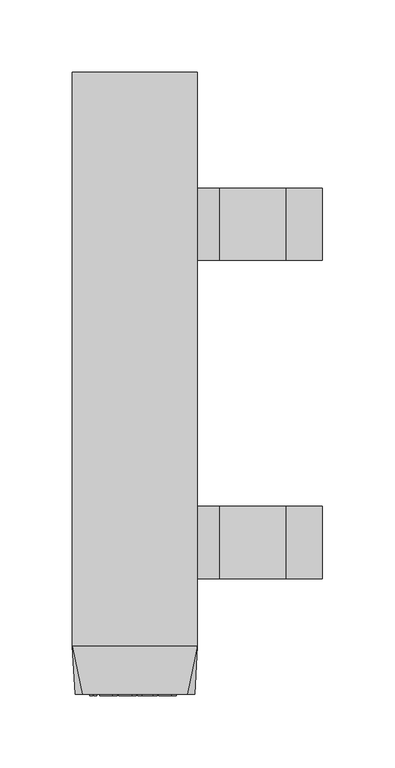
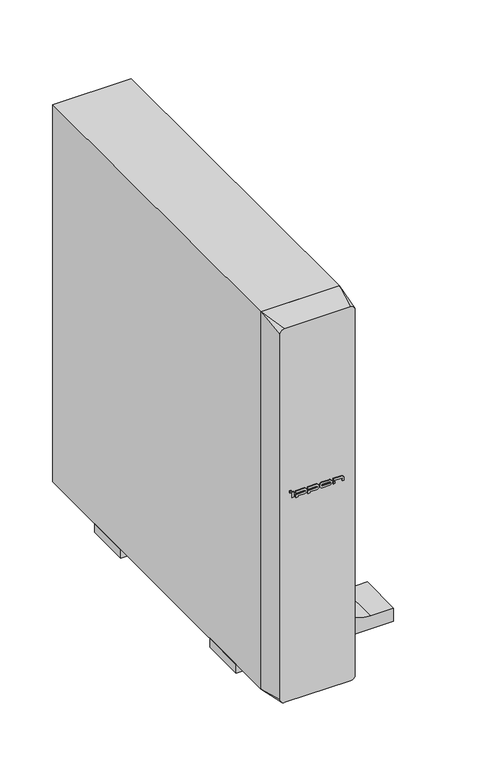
"""IFC4 building model written with IfcOpenShell, lengths in millimetres: proxy geometry, IPPON_EBM_Smart Winner II_1500_2000_2000E_3000ВА : EBM Smart Winner II 1500 ВА."""

from ifc_helpers import new_model, si_unit, point, frame, frame_2d, origin, origin_with_axes, place, context, project, spatial, polyline, circle_curve, trimmed, segment, composite_curve, outline, extrude, source, transform, mapped, element, save
from ifc_brep_helpers import plane_surface, spline_surface, advanced_brep


def electrical_equipment_f85adaec(model_context):
    return source(origin(), model_context, "Body", "SolidModel", [
        extrude(outline(polyline([(-29.1718133, -1.0), (-31.1718133, -1.0), (-31.1718133, 0.0), (-29.1718133, 0.0), (-29.1718133, -1.0)])), frame((0.0, 0.0, 253.8445835), z_axis=(0.0, 0.0, 1.0), x_axis=(1.0, 0.0, 0.0)), (0.0, 0.0, 1.0), 2.3),
        extrude(outline(polyline([(18.6035474, -1.0), (16.6035474, -1.0), (16.6035474, 0.0), (18.6035474, 0.0), (18.6035474, -1.0)])), frame((0.0, 0.0, 247.8445835), z_axis=(0.0, 0.0, 1.0), x_axis=(1.0, 0.0, 0.0)), (0.0, 0.0, 1.0), 2.2268231),
        extrude(outline(polyline([(-26.438565, -1.0), (-28.4833324, -1.0), (-28.4833324, 0.0), (-26.438565, 0.0), (-26.438565, -1.0)])), frame((0.0, 0.0, 247.8445835), z_axis=(0.0, 0.0, 1.0), x_axis=(1.0, 0.0, 0.0)), (0.0, 0.0, 1.0), 6.0),
        extrude(outline(composite_curve([segment(polyline([(251.5821435, -24.2241109), (251.5821435, -14.9923536)]), True, "CONTINUOUS"), segment(trimmed(circle_curve(frame_2d((250.7256642, -14.9923536)), 0.8564793), [point((251.5821435, -14.9923536))], [point((249.8691849, -14.9923536))], True, "CARTESIAN"), True, "CONTINUOUS"), segment(polyline([(249.8691849, -14.9923536), (249.8691849, -24.2241109), (246.3786803, -24.2241109), (246.3786803, -22.2241109), (247.8445835, -22.2241109), (247.8445835, -15.1486036)]), True, "CONTINUOUS"), segment(trimmed(circle_curve(frame_2d((250.8445835, -15.1486036)), 3.0), [point((247.8445835, -15.1486036))], [point((253.8445835, -15.1486036))], False, "CARTESIAN"), True, "CONTINUOUS"), segment(polyline([(253.8445835, -15.1486036), (253.8445835, -24.2241109), (251.5821435, -24.2241109)]), True, "CONTINUOUS")], self_intersect=False)), frame((0.0, -1.0, 0.0), z_axis=(0.0, 1.0, 0.0), x_axis=(0.0, 0.0, 1.0)), (0.0, 0.0, 1.0), 1.0),
        extrude(outline(composite_curve([segment(polyline([(251.5821435, -11.0171091), (251.5821435, -1.7853518)]), True, "CONTINUOUS"), segment(trimmed(circle_curve(frame_2d((250.7256642, -1.7853518)), 0.8564793), [point((251.5821435, -1.7853518))], [point((249.8691849, -1.7853518))], True, "CARTESIAN"), True, "CONTINUOUS"), segment(polyline([(249.8691849, -1.7853518), (249.8691849, -11.0171091), (246.3786803, -11.0171091), (246.3786803, -9.0171091), (247.8445835, -9.0171091), (247.8445835, -1.9416018)]), True, "CONTINUOUS"), segment(trimmed(circle_curve(frame_2d((250.8445835, -1.9416018)), 3.0), [point((247.8445835, -1.9416018))], [point((253.8445835, -1.9416018))], False, "CARTESIAN"), True, "CONTINUOUS"), segment(polyline([(253.8445835, -1.9416018), (253.8445835, -11.0171091), (251.5821435, -11.0171091)]), True, "CONTINUOUS")], self_intersect=False)), frame((0.0, -1.0, 0.0), z_axis=(0.0, 1.0, 0.0), x_axis=(0.0, 0.0, 1.0)), (0.0, 0.0, 1.0), 1.0),
        extrude(outline(composite_curve([segment(trimmed(circle_curve(frame_2d((250.8445835, 12.558657)), 3.0), [point((247.8445835, 12.558657))], [point((253.8445835, 12.558657))], False, "CARTESIAN"), True, "CONTINUOUS"), segment(polyline([(253.8445835, 12.558657), (253.8445835, 4.958657)]), True, "CONTINUOUS"), segment(trimmed(circle_curve(frame_2d((250.8445835, 4.958657)), 3.0), [point((253.8445835, 4.958657))], [point((247.8445835, 4.958657))], False, "CARTESIAN"), True, "CONTINUOUS"), segment(polyline([(247.8445835, 4.958657), (247.8445835, 12.558657)]), True, "CONTINUOUS")], self_intersect=False), holes=[composite_curve([segment(polyline([(249.8691849, 12.714907), (249.8691849, 4.802407)]), True, "CONTINUOUS"), segment(trimmed(circle_curve(frame_2d((250.7256642, 4.802407)), 0.8564793), [point((249.8691849, 4.802407))], [point((251.5821435, 4.802407))], True, "CARTESIAN"), True, "CONTINUOUS"), segment(polyline([(251.5821435, 4.802407), (251.5821435, 12.714907)]), True, "CONTINUOUS"), segment(trimmed(circle_curve(frame_2d((250.7256642, 12.714907)), 0.8564793), [point((251.5821435, 12.714907))], [point((249.8691849, 12.714907))], True, "CARTESIAN"), True, "CONTINUOUS")], self_intersect=False)]), frame((0.0, -1.0, 0.0), z_axis=(0.0, 1.0, 0.0), x_axis=(0.0, 0.0, 1.0)), (0.0, 0.0, 1.0), 1.0),
        extrude(outline(composite_curve([segment(polyline([(251.5821435, 16.6035474), (251.5821435, 25.8353046)]), True, "CONTINUOUS"), segment(trimmed(circle_curve(frame_2d((250.7256642, 25.8353046)), 0.8564793), [point((251.5821435, 25.8353046))], [point((250.7256642, 26.6917839))], True, "CARTESIAN"), True, "CONTINUOUS"), segment(polyline([(250.7256642, 26.6917839), (247.8445835, 26.6917839), (247.8445835, 28.6317921), (251.375, 28.6317921)]), True, "CONTINUOUS"), segment(trimmed(circle_curve(frame_2d((250.8445835, 25.6790546)), 3.0), [point((251.375, 28.6317921))], [point((253.8445835, 25.6790546))], False, "CARTESIAN"), True, "CONTINUOUS"), segment(polyline([(253.8445835, 25.6790546), (253.8445835, 16.6035474), (251.5821435, 16.6035474)]), True, "CONTINUOUS")], self_intersect=False)), frame((0.0, -1.0, 0.0), z_axis=(0.0, 1.0, 0.0), x_axis=(0.0, 0.0, 1.0)), (0.0, 0.0, 1.0), 1.0),
        extrude(outline(polyline([(-43.25, 350.0), (43.25, 350.0), (43.25, 300.0), (-43.25, 300.0), (-43.25, 350.0)])), origin_with_axes(), (0.0, 0.0, 1.0), 10.0),
        extrude(outline(polyline([(43.25, 80.0), (-43.25, 80.0), (-43.25, 130.0), (43.25, 130.0), (43.25, 80.0)])), origin_with_axes(), (0.0, 0.0, 1.0), 10.0),
        extrude(outline(composite_curve([segment(polyline([(0.0, 129.75), (15.0, 129.75), (15.0, 104.75)]), True, "CONTINUOUS"), segment(trimmed(circle_curve(frame_2d((61.5, 104.75)), 46.5), [point((15.0, 104.75))], [point((61.5, 58.25))], True, "CARTESIAN"), True, "CONTINUOUS"), segment(polyline([(61.5, 58.25), (86.5, 58.25), (86.5, 43.25), (0.0, 43.25), (0.0, 129.75)]), True, "CONTINUOUS")], self_intersect=False)), frame((0.0, 300.0, 0.0), z_axis=(0.0, 1.0, 0.0), x_axis=(0.0, 0.0, 1.0)), (0.0, 0.0, 1.0), 50.0),
        extrude(outline(composite_curve([segment(polyline([(0.0, 43.25), (0.0, 129.75), (15.0, 129.75), (15.0, 104.75)]), True, "CONTINUOUS"), segment(trimmed(circle_curve(frame_2d((61.5, 104.75)), 46.5), [point((15.0, 104.75))], [point((61.5, 58.25))], True, "CARTESIAN"), True, "CONTINUOUS"), segment(polyline([(61.5, 58.25), (86.5, 58.25), (86.5, 43.25), (0.0, 43.25)]), True, "CONTINUOUS")], self_intersect=False)), frame((0.0, 80.0, 0.0), z_axis=(0.0, 1.0, 0.0), x_axis=(0.0, 0.0, 1.0)), (0.0, 0.0, 1.0), 50.0),
        advanced_brep(
        [(36.25, 0.0, 12.0), (41.25, 0.0, 17.0), (41.25, 0.0, 441.0), (36.25, 0.0, 446.0), (-36.25, 0.0, 446.0), (-41.25, 0.0, 441.0), (-41.25, 0.0, 17.0), (-36.25, 0.0, 12.0), (43.25, 33.0, 10.0), (-43.25, 33.0, 10.0), (-43.25, 33.0, 448.0), (43.25, 33.0, 448.0)],
        [
            (0, 1, circle_curve(frame((36.25, 0.0, 17.0), z_axis=(0.0, -1.0, 0.0), x_axis=(-1.0, 0.0, 0.0)), 5.0)),
            (1, 2),
            (2, 3, circle_curve(frame((36.25, 0.0, 441.0), z_axis=(0.0, -1.0, 0.0), x_axis=(-1.0, 0.0, 0.0)), 5.0)),
            (3, 4),
            (4, 5, circle_curve(frame((-36.25, 0.0, 441.0), z_axis=(0.0, -1.0, 0.0), x_axis=(-1.0, 0.0, 0.0)), 5.0)),
            (5, 6),
            (6, 7, circle_curve(frame((-36.25, 0.0, 17.0), z_axis=(0.0, -1.0, 0.0), x_axis=(-1.0, 0.0, 0.0)), 5.0)),
            (7, 0),
            (8, 9),
            (9, 10),
            (10, 11),
            (11, 8),
            (0, 8),
            (8, 1),
            (7, 9),
            (6, 9),
            (5, 10),
            (4, 10),
            (3, 11),
            (2, 11),
        ],
        [
            plane_surface(frame((0.0, 0.0, 229.0), z_axis=(0.0, -1.0, 0.0), x_axis=(1.0, 0.0, 0.0))),
            plane_surface(frame((0.0, 33.0, 229.0), z_axis=(0.0, 1.0, 0.0), x_axis=(1.0, 0.0, 0.0))),
            spline_surface(2, 1, [[(43.25, 33.0, 10.0), (36.25, 0.0, 12.0)], [(43.25, 33.0, 10.0), (41.25, 0.0, 12.0)], [(43.25, 33.0, 10.0), (41.25, 0.0, 17.0)]], [3, 3], [2, 2], [0.0, 1.0], [0.0, 1.0], weights=[[1.0, 1.0], [0.7071067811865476, 0.7071067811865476], [1.0, 1.0]]),
            plane_surface(frame((0.0, 33.0, 10.0), z_axis=(0.0, -0.060495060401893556, -0.9981684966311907), x_axis=(1.0, 0.0, 0.0))),
            spline_surface(2, 1, [[(-43.25, 33.0, 10.0), (-41.25, 0.0, 17.0)], [(-43.25, 33.0, 10.0), (-41.25, 0.0, 12.0)], [(-43.25, 33.0, 10.0), (-36.25, 0.0, 12.0)]], [3, 3], [2, 2], [0.0, 1.0], [0.0, 1.0], weights=[[1.0, 1.0], [0.7071067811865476, 0.7071067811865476], [1.0, 1.0]]),
            plane_surface(frame((-43.25, 33.0, 229.0), z_axis=(-0.998168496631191, -0.06049506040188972, 0.0), x_axis=(0.0, 0.0, -1.0))),
            spline_surface(2, 1, [[(-43.25, 33.0, 448.0), (-36.25, 0.0, 446.0)], [(-43.25, 33.0, 448.0), (-41.25, 0.0, 446.0)], [(-43.25, 33.0, 448.0), (-41.25, 0.0, 441.0)]], [3, 3], [2, 2], [0.0, 1.0], [0.0, 1.0], weights=[[1.0, 1.0], [0.7071067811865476, 0.7071067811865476], [1.0, 1.0]]),
            plane_surface(frame((0.0, 33.0, 448.0), z_axis=(0.0, -0.06049506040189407, 0.9981684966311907), x_axis=(-1.0, 0.0, 0.0))),
            spline_surface(2, 1, [[(43.25, 33.0, 448.0), (41.25, 0.0, 441.0)], [(43.25, 33.0, 448.0), (41.25, 0.0, 446.0)], [(43.25, 33.0, 448.0), (36.25, 0.0, 446.0)]], [3, 3], [2, 2], [0.0, 1.0], [0.0, 1.0], weights=[[1.0, 1.0], [0.7071067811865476, 0.7071067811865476], [1.0, 1.0]]),
            plane_surface(frame((43.25, 33.0, 229.0), z_axis=(0.9981684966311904, -0.06049506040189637, 0.0), x_axis=(0.0, 0.0, 1.0))),
        ],
        [
            (0, [[1, 2, 3, 4, 5, 6, 7, 8]]),
            (1, [[9, 10, 11, 12]]),
            (2, [[-1, 13, 14]]),
            (3, [[-9, -13, -8, 15]]),
            (4, [[-7, 16, -15]]),
            (5, [[-10, -16, -6, 17]]),
            (6, [[-5, 18, -17]]),
            (7, [[-11, -18, -4, 19]]),
            (8, [[-3, 20, -19]]),
            (9, [[-12, -20, -2, -14]]),
        ],
    ),
        extrude(outline(polyline([(43.25, 33.0), (-43.25, 33.0), (-43.25, 430.0), (43.25, 430.0), (43.25, 33.0)])), frame((0.0, 0.0, 10.0), z_axis=(0.0, 0.0, 1.0), x_axis=(1.0, 0.0, 0.0)), (0.0, 0.0, 1.0), 438.0),
    ])


if __name__ == "__main__":
    model = new_model("IFC4")
    model_context = context("Model", 3, world=origin())
    ifc_project = project(units=[si_unit("LENGTHUNIT", "METRE", prefix="MILLI")], contexts=[model_context])
    site = spatial("IfcSite", under=ifc_project)
    building = spatial("IfcBuilding", under=site)
    placement = place(None, origin())
    electrical_equipment_shape = electrical_equipment_f85adaec(model_context)
    element("IfcBuildingElementProxy", 1, Name="IPPON_EBM_Smart Winner II_1500_2000_2000E_3000ВА : EBM Smart Winner II 1500 ВА", ObjectType="IPPON_EBM_Smart Winner II_1500_2000_2000E_3000ВА : EBM Smart Winner II 1500 ВА", at=placement, inside=building, context=model_context, shape_type="MappedRepresentation", body=[
        mapped(electrical_equipment_shape, transform((0.0, 0.0, 0.0), x_axis=(1.0, 0.0, 0.0), y_axis=(0.0, 1.0, 0.0), z_axis=(0.0, 0.0, 1.0))),
    ])
    save(model, "model.ifc")
